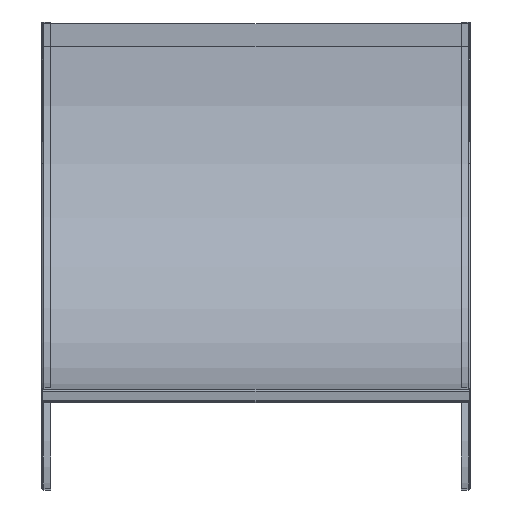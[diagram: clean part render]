
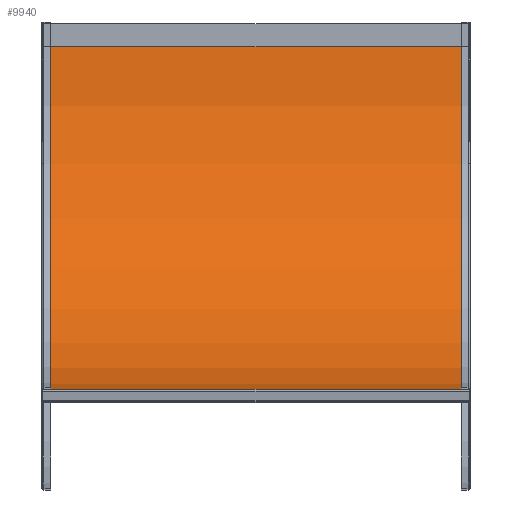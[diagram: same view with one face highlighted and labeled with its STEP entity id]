
A CAD part, front view. The second image highlights one B-rep face of the part: STEP entity #9940.
In plain terms, the highlighted cylindrical face has radius 611.632 mm (diameter 1223.26 mm), a partial arc.
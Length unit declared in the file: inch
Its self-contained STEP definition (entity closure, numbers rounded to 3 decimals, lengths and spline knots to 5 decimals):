
#9774=DIRECTION('',(-1.,0.,0.));
#9775=VECTOR('',#9774,29.875);
#9776=CARTESIAN_POINT('',(14.9375,0.,0.));
#9777=LINE('',#9776,#9775);
#9778=CARTESIAN_POINT('',(14.9375,24.08,0.));
#9779=DIRECTION('',(-1.,0.,0.));
#9780=DIRECTION('',(0.,-1.,0.));
#9781=AXIS2_PLACEMENT_3D('',#9778,#9779,#9780);
#9804=CARTESIAN_POINT('',(-14.9375,24.08,0.));
#9805=DIRECTION('',(-1.,0.,0.));
#9806=DIRECTION('',(0.,-1.,0.));
#9807=AXIS2_PLACEMENT_3D('',#9804,#9805,#9806);
#9830=DIRECTION('',(-1.,0.,0.));
#9831=VECTOR('',#9830,29.875);
#9832=CARTESIAN_POINT('',(14.9375,24.08,24.08));
#9833=LINE('',#9832,#9831);
#9878=CARTESIAN_POINT('',(14.9375,0.,0.));
#9880=VERTEX_POINT('',#9878);
#9884=CARTESIAN_POINT('',(-14.9375,0.,0.));
#9885=VERTEX_POINT('',#9884);
#9894=CARTESIAN_POINT('',(14.9375,24.08,24.08));
#9895=VERTEX_POINT('',#9894);
#9898=CARTESIAN_POINT('',(-14.9375,24.08,24.08));
#9899=VERTEX_POINT('',#9898);
#9926=CARTESIAN_POINT('',(14.9375,24.08,0.));
#9927=DIRECTION('',(-1.,0.,0.));
#9928=DIRECTION('',(0.,0.,1.));
#9929=AXIS2_PLACEMENT_3D('',#9926,#9927,#9928);
#9930=CYLINDRICAL_SURFACE('',#9929,24.08);
#9932=ORIENTED_EDGE('',*,*,#9931,.T.);
#9934=ORIENTED_EDGE('',*,*,#9933,.T.);
#9936=ORIENTED_EDGE('',*,*,#9935,.F.);
#9937=ORIENTED_EDGE('',*,*,#9915,.F.);
#9938=EDGE_LOOP('',(#9932,#9934,#9936,#9937));
#9939=FACE_OUTER_BOUND('',#9938,.F.);
#9940=ADVANCED_FACE('',(#9939),#9930,.F.);
#9782=CIRCLE('',#9781,24.08);
#9808=CIRCLE('',#9807,24.08);
#9915=EDGE_CURVE('',#9880,#9885,#9777,.T.);
#9931=EDGE_CURVE('',#9880,#9895,#9782,.T.);
#9933=EDGE_CURVE('',#9895,#9899,#9833,.T.);
#9935=EDGE_CURVE('',#9885,#9899,#9808,.T.);
